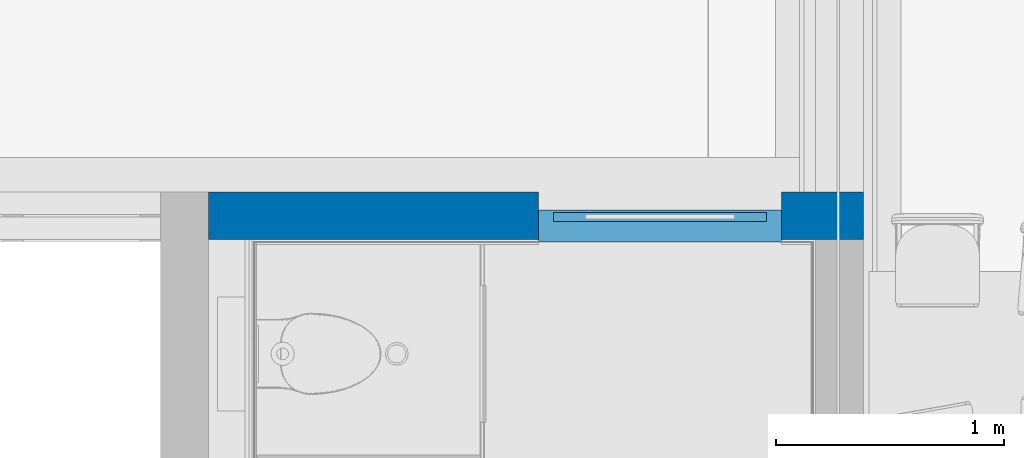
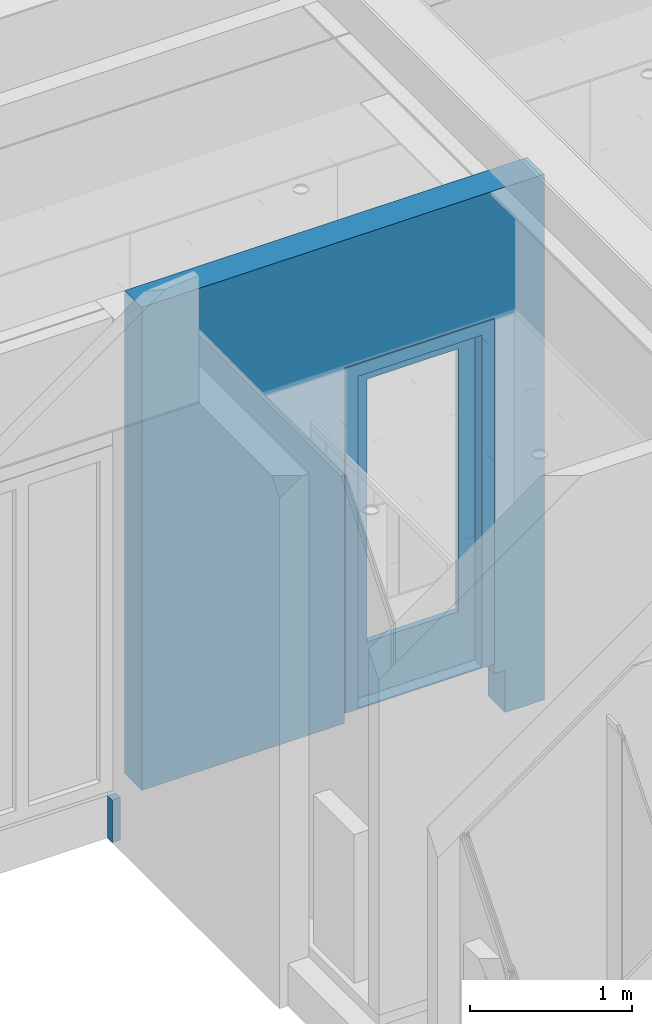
# One storey, part 35 of 260: 2 building element parts, 1 wall, 1 opening, 1 element without a shape of its own.
"""IFC2X3 building model written with IfcOpenShell, lengths in millimetres."""

from ifc_helpers import new_model, entity, si_unit, converted_unit, derived_unit, money_unit, direction, frame, origin_with_axes, place, context, subcontext, project, spatial, faceted_brep, source, transform, mapped, material, type_object, element, fill, aggregate, save


model = new_model("IFC2X3")

# Units and contexts
model_context = context("Model", 3, precision=0.01, world=origin_with_axes(), true_north=direction((0.0, 1.0)))
plan_context = context("Plan", 3, precision=0.01, world=origin_with_axes(), true_north=direction((0.0, 1.0)))
body_context = subcontext(model_context, "Body", "Model", "MODEL_VIEW")
ifc_project = project(units=[si_unit("LENGTHUNIT", "METRE", prefix="MILLI"), si_unit("AREAUNIT", "SQUARE_METRE"), si_unit("VOLUMEUNIT", "CUBIC_METRE"), converted_unit("PLANEANGLEUNIT", "DEGREE", entity("IfcPlaneAngleMeasure", 0.0174532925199), si_unit("PLANEANGLEUNIT", "RADIAN"), dimensions=[0, 0, 0, 0, 0, 0, 0]), money_unit("EUR"), converted_unit("TIMEUNIT", "Year", entity("IfcTimeMeasure", 31556926.0), si_unit("TIMEUNIT", "SECOND"), dimensions=[0, 0, 1, 0, 0, 0, 0]), si_unit("MASSUNIT", "GRAM", prefix="KILO"), si_unit("THERMODYNAMICTEMPERATUREUNIT", "DEGREE_CELSIUS"), si_unit("LUMINOUSINTENSITYUNIT", "LUMEN"), si_unit("ENERGYUNIT", "JOULE", prefix="MEGA"), derived_unit("THERMALCONDUCTANCEUNIT", [(si_unit("POWERUNIT", "WATT"), 1), (si_unit("LENGTHUNIT", "METRE"), -1), (si_unit("THERMODYNAMICTEMPERATUREUNIT", "KELVIN"), -1)]), derived_unit("SPECIFICHEATCAPACITYUNIT", [(si_unit("ENERGYUNIT", "JOULE"), 1), (si_unit("MASSUNIT", "GRAM", prefix="KILO"), -1), (si_unit("THERMODYNAMICTEMPERATUREUNIT", "KELVIN"), -1)]), derived_unit("MASSDENSITYUNIT", [(si_unit("MASSUNIT", "GRAM", prefix="KILO"), 1), (si_unit("VOLUMEUNIT", "CUBIC_METRE"), -1)])], contexts=[model_context, plan_context])

# Site, building, storey
site_placement = place(None, origin_with_axes())
site = spatial("IfcSite", under=ifc_project, at=site_placement, Name="Site", CompositionType="ELEMENT")
building_placement = place(site_placement, origin_with_axes())
building = spatial("IfcBuilding", under=site, at=building_placement, Name="Naam gebouw", CompositionType="ELEMENT")
storey_placement = place(building_placement, frame((0.0, 0.0, 3960.0), z_axis=(0.0, 0.0, 1.0), x_axis=(1.0, 0.0, 0.0)))
storey = spatial("IfcBuildingStorey", under=building, at=storey_placement, Name="verdieping", CompositionType="ELEMENT", Elevation=3960.0)

# Wall, opening, door, building element parts
ifc_material_1 = material(Name="Beton gewapend prefab wand")
wall_type = type_object("IfcWallType", Name="Betonwand 200 210", PredefinedType="NOTDEFINED")
wall_placement = place(storey_placement, frame((41575.0, 36652.5, -400.0), z_axis=(0.0, 0.0, 1.0), x_axis=(1.0, 0.0, 0.0)))
wall = element("IfcWall", 1, at=wall_placement, inside=storey, type_object=wall_type, material=ifc_material_1, Name="21_GF 125 ECO DGS/2.75.2A", context=body_context, shape_type="Brep", body=[
    faceted_brep([(59.9999771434, 0.0, 0.0), (59.9999771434, 60.0, 0.0), (59.9999771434, 60.0, 320.0), (59.9999771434, 0.0, 320.0), (0.0, 0.0, 0.0), (0.0, 60.0, 0.0), (0.0, 60.0, 320.0), (0.0, 0.0, 320.0)], [[[0, 1, 2, 3]], [[4, 5, 1, 0]], [[5, 6, 2, 1]], [[3, 2, 6, 7]], [[4, 0, 3, 7]], [[7, 6, 5, 4]]]),
    faceted_brep([(2720.0, 210.0, 400.0), (2720.0, 0.0, 400.0), (2720.0, 0.0, 3000.0), (2720.0, 210.0, 3000.0), (2720.0, 210.0, 320.0), (2720.0, 0.0, 320.0), (2800.00003771, 0.0, 320.0), (2800.00003771, 0.0, 0.0), (3080.0, 0.0, 0.0), (3080.0, 0.0, 3960.0), (210.0, 0.0, 3960.0), (210.0, 0.0, 320.0), (1656.0, 0.0, 320.0), (1656.0, 0.0, 400.0), (1656.0, 0.0, 3000.0), (1656.0, 210.0, 3000.0), (1656.0, 210.0, 400.0), (1656.0, 210.0, 320.0), (210.0, 210.0, 320.0), (210.0, 210.0, 3960.0), (3080.0, 210.0, 3960.0), (3080.0, 210.0, 0.0), (2800.00003771, 210.0, 0.0), (2800.00003771, 210.0, 320.0), (2800.00003771, 60.0, 320.0), (2800.00003771, 60.0, 0.0)], [[[0, 1, 2, 3]], [[1, 0, 4, 5]], [[2, 1, 5, 6, 7, 8, 9, 10, 11, 12, 13, 14]], [[3, 2, 14, 15]], [[4, 0, 3, 15, 16, 17, 18, 19, 20, 21, 22, 23]], [[6, 5, 4, 23, 24]], [[25, 7, 6, 24]], [[8, 7, 25, 22, 21]], [[8, 21, 20, 9]], [[19, 10, 9, 20]], [[11, 10, 19, 18]], [[12, 11, 18, 17]], [[13, 12, 17, 16]], [[14, 13, 16, 15]], [[22, 25, 24, 23]]]),
])
opening_placement = place(wall_placement, frame((2188.0, 0.0, 400.0), z_axis=(0.0, 0.0, 1.0), x_axis=(1.0, 0.0, 0.0)))
opening = element("IfcOpeningElement", 2, at=opening_placement, cuts=wall, Name="32_02.04", context=body_context, shape_type="Brep", body=[
    faceted_brep([(532.0, -210.0, 2600.0), (532.0, -210.0, 0.0), (532.0, 130.0, 0.0), (532.0, 130.0, 2600.0), (-532.0, -210.0, 2600.0), (-532.0, -210.0, 0.0), (-532.0, 130.0, 0.0), (-532.0, 130.0, 2600.0)], [[[0, 1, 2, 3]], [[0, 4, 5, 1]], [[1, 5, 6, 2]], [[3, 2, 6, 7]], [[4, 0, 3, 7]], [[5, 4, 7, 6]]]),
    faceted_brep([(532.0, 420.0, 0.0), (532.0, 420.0, 2600.0), (532.0, 130.0, 2600.0), (532.0, 130.0, 0.0), (-532.0, 420.0, 0.0), (-532.0, 420.0, 2600.0), (-532.0, 130.0, 2600.0), (-532.0, 130.0, 0.0)], [[[0, 1, 2, 3]], [[0, 4, 5, 1]], [[1, 5, 6, 2]], [[3, 2, 6, 7]], [[4, 0, 3, 7]], [[5, 4, 7, 6]]]),
])
door_style = type_object("IfcDoorStyle", Name="D1 25", ConstructionType="NOTDEFINED", OperationType="SINGLE_SWING_RIGHT", ParameterTakesPrecedence=False, Sizeable=False)
door_placement = place(opening_placement, frame((-532.0, 0.0, 0.0), z_axis=(0.0, 0.0, 1.0), x_axis=(1.0, 0.0, 0.0)))
door = element("IfcDoor", 3, at=door_placement, inside=storey, type_object=door_style, Name="32_02.04", ObjectType="DOOR", OverallHeight=2600.0, OverallWidth=1064.0)
fill(opening, door)
shared_shape_1 = source(origin_with_axes(), body_context, "Body", "Brep", [
    faceted_brep([(-467.0, -40.0, 10.0), (-442.0, -40.0, 10.0), (-442.0, -139.0, 10.0), (442.0, -139.0, 10.0), (442.0, -40.0, 10.0), (467.0, -40.0, 10.0), (467.0, 0.0, 10.0), (-467.0, 0.0, 10.0), (-467.0, -40.0, 0.0), (-442.0, -40.0, 0.0), (-442.0, -139.0, 0.0), (442.0, -139.0, 0.0), (442.0, -40.0, 0.0), (467.0, -40.0, 0.0), (467.0, 0.0, 0.0), (-467.0, 0.0, 0.0)], [[[0, 1, 2, 3, 4, 5, 6, 7]], [[1, 0, 8, 9]], [[10, 2, 1, 9]], [[2, 10, 11, 3]], [[3, 11, 12, 4]], [[5, 4, 12, 13]], [[13, 14, 6, 5]], [[15, 7, 6, 14]], [[8, 0, 7, 15]], [[9, 8, 15, 14, 13, 12, 11, 10]]]),
    faceted_brep([(-442.0, -50.0, 0.0), (-442.0, -50.0, 2510.0), (-442.0, -139.0, 2510.0), (-442.0, -139.0, 0.0), (-467.0, -50.0, 2510.0), (-467.0, -50.0, 0.0), (-467.0, 0.0, 2510.0), (-532.0, 0.0, 2510.0), (-532.0, -139.0, 2510.0), (-532.0, -139.0, 0.0), (-532.0, 0.0, 0.0), (-467.0, 0.0, 0.0)], [[[0, 1, 2, 3]], [[4, 1, 0, 5]], [[4, 6, 7, 8, 2, 1]], [[3, 2, 8, 9]], [[5, 0, 3, 9, 10, 11]], [[6, 4, 5, 11]], [[6, 11, 10, 7]], [[10, 9, 8, 7]]]),
    faceted_brep([(467.0, -50.0, 2510.0), (442.0, -50.0, 2510.0), (442.0, -139.0, 2510.0), (532.0, -139.0, 2510.0), (532.0, 0.0, 2510.0), (467.0, 0.0, 2510.0), (467.0, -50.0, 0.0), (442.0, -50.0, 0.0), (442.0, -139.0, 0.0), (532.0, -139.0, 0.0), (532.0, 0.0, 0.0), (467.0, 0.0, 0.0)], [[[0, 1, 2, 3, 4, 5]], [[1, 0, 6, 7]], [[1, 7, 8, 2]], [[3, 2, 8, 9]], [[4, 3, 9, 10]], [[11, 5, 4, 10]], [[0, 5, 11, 6]], [[6, 11, 10, 9, 8, 7]]]),
    faceted_brep([(-467.0, 0.0, 2535.0), (-467.0, 0.0, 2510.0), (-532.0, 0.0, 2510.0), (-532.0, 0.0, 2600.0), (532.0, 0.0, 2600.0), (532.0, 0.0, 2510.0), (467.0, 0.0, 2510.0), (467.0, 0.0, 2535.0), (-467.0, -50.0, 2535.0), (-467.0, -50.0, 2510.0), (-442.0, -50.0, 2510.0), (-442.0, -139.0, 2510.0), (-532.0, -139.0, 2510.0), (-532.0, -139.0, 2600.0), (532.0, -139.0, 2600.0), (532.0, -139.0, 2510.0), (467.0, -50.0, 2510.0), (442.0, -139.0, 2510.0), (442.0, -50.0, 2510.0), (467.0, -50.0, 2535.0)], [[[0, 1, 2, 3, 4, 5, 6, 7]], [[1, 0, 8, 9]], [[9, 10, 11, 12, 2, 1]], [[2, 12, 13, 3]], [[3, 13, 14, 4]], [[4, 14, 15, 5]], [[16, 6, 5, 15, 17, 18]], [[7, 6, 16, 19]], [[0, 7, 19, 8]], [[16, 18, 10, 9, 8, 19]], [[10, 18, 17, 11]], [[17, 15, 14, 13, 12, 11]]]),
])
building_element_part_1_placement = place(door_placement, origin_with_axes())
building_element_part_1 = element("IfcBuildingElementPart", 4, at=building_element_part_1_placement, context=body_context, shape_type="MappedRepresentation", body=[
    mapped(shared_shape_1, transform((532.0, 130.0, 0.0))),
])
ifc_material_2 = material(Name="Hout C")
shared_shape_2 = source(origin_with_axes(), body_context, "Body", "Brep", [
    faceted_brep([(467.0, -10.0, 10.0), (467.0, -50.0, 10.0), (-467.0, -50.0, 10.0), (-467.0, -10.0, 10.0), (467.0, -10.0, 2535.0), (467.0, -50.0, 2535.0), (-467.0, -50.0, 2535.0), (-326.397849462, -50.0, 2394.16334661), (326.397849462, -50.0, 2394.16334661), (326.397849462, -50.0, 412.390438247), (-326.397849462, -50.0, 412.390438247), (-467.0, -10.0, 2535.0), (-326.397849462, -10.0, 2394.16334661), (-326.397849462, -10.0, 412.390438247), (326.397849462, -10.0, 412.390438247), (326.397849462, -10.0, 2394.16334661)], [[[0, 1, 2, 3]], [[4, 5, 1, 0]], [[1, 5, 6, 2], [7, 8, 9, 10]], [[3, 2, 6, 11]], [[0, 3, 11, 4], [12, 13, 14, 15]], [[11, 6, 5, 4]], [[15, 8, 7, 12]], [[14, 9, 8, 15]], [[13, 10, 9, 14]], [[12, 7, 10, 13]]]),
])
building_element_part_2_placement = place(door_placement, origin_with_axes())
building_element_part_2 = element("IfcBuildingElementPart", 5, at=building_element_part_2_placement, material=ifc_material_2, Name="Hout C", context=body_context, shape_type="MappedRepresentation", body=[
    mapped(shared_shape_2, transform((532.0, 130.0, 0.0))),
])
aggregate(door, [building_element_part_1, building_element_part_2])

save(model, "model.ifc")
